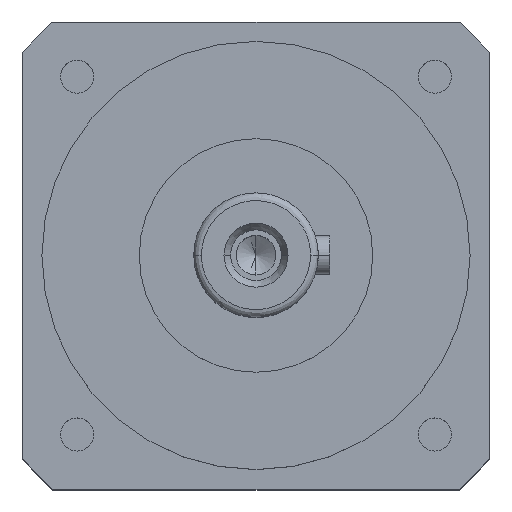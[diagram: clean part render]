
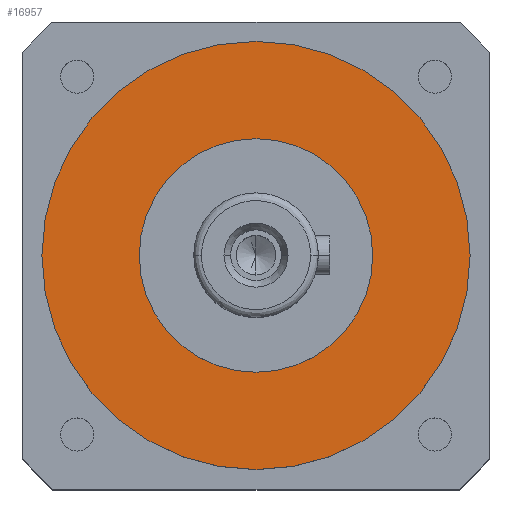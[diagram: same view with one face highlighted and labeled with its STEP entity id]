
A CAD part, top view. The second image highlights one B-rep face of the part: STEP entity #16957.
In plain terms, the highlighted planar face has unit normal (0, 0, 1).
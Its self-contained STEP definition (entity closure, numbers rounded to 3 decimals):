
#157 = DIRECTION ( 'NONE',  ( 0., 0., -1. ) ) ;
#2098 = AXIS2_PLACEMENT_3D ( 'NONE', #18201, #42589, #21761 ) ;
#3085 = DIRECTION ( 'NONE',  ( 1., 0., 0. ) ) ;
#3700 = CIRCLE ( 'NONE', #15638, 30. ) ;
#4051 = ORIENTED_EDGE ( 'NONE', *, *, #35868, .F. ) ;
#6122 = CARTESIAN_POINT ( 'NONE',  ( 0., 0., -52. ) ) ;
#6374 = CIRCLE ( 'NONE', #2098, 30. ) ;
#7255 = ORIENTED_EDGE ( 'NONE', *, *, #12723, .F. ) ;
#7733 = CARTESIAN_POINT ( 'NONE',  ( 55., 0., -52. ) ) ;
#8866 = ORIENTED_EDGE ( 'NONE', *, *, #40311, .F. ) ;
#9690 = DIRECTION ( 'NONE',  ( 1., 0., 0. ) ) ;
#12309 = ORIENTED_EDGE ( 'NONE', *, *, #20983, .F. ) ;
#12723 = EDGE_CURVE ( 'NONE', #32983, #37132, #42177, .T. ) ;
#13446 = AXIS2_PLACEMENT_3D ( 'NONE', #21364, #157, #24920 ) ;
#15638 = AXIS2_PLACEMENT_3D ( 'NONE', #6122, #30803, #9690 ) ;
#15672 = VERTEX_POINT ( 'NONE', #19877 ) ;
#16957 = ADVANCED_FACE ( 'NONE', ( #39434, #20936 ), #37096, .F. ) ;
#18201 = CARTESIAN_POINT ( 'NONE',  ( 0., 0., -52. ) ) ;
#18359 = AXIS2_PLACEMENT_3D ( 'NONE', #26686, #40590, #19717 ) ;
#19717 = DIRECTION ( 'NONE',  ( -1., 0., 0. ) ) ;
#19877 = CARTESIAN_POINT ( 'NONE',  ( -30., 0., -52. ) ) ;
#20936 = FACE_BOUND ( 'NONE', #44319, .T. ) ;
#20983 = EDGE_CURVE ( 'NONE', #15672, #44972, #6374, .T. ) ;
#21364 = CARTESIAN_POINT ( 'NONE',  ( 0., 0., -52. ) ) ;
#21761 = DIRECTION ( 'NONE',  ( 1., 0., 0. ) ) ;
#24284 = DIRECTION ( 'NONE',  ( 0., 0., -1. ) ) ;
#24920 = DIRECTION ( 'NONE',  ( 1., 0., 0. ) ) ;
#25684 = AXIS2_PLACEMENT_3D ( 'NONE', #45130, #24284, #3085 ) ;
#26686 = CARTESIAN_POINT ( 'NONE',  ( 0., 30., -52. ) ) ;
#30588 = EDGE_LOOP ( 'NONE', ( #4051, #7255 ) ) ;
#30803 = DIRECTION ( 'NONE',  ( 0., 0., 1. ) ) ;
#31228 = CARTESIAN_POINT ( 'NONE',  ( 30., 0., -52. ) ) ;
#32983 = VERTEX_POINT ( 'NONE', #44224 ) ;
#35848 = CIRCLE ( 'NONE', #13446, 55. ) ;
#35868 = EDGE_CURVE ( 'NONE', #37132, #32983, #35848, .T. ) ;
#37096 = PLANE ( 'NONE',  #18359 ) ;
#37132 = VERTEX_POINT ( 'NONE', #7733 ) ;
#39434 = FACE_OUTER_BOUND ( 'NONE', #30588, .T. ) ;
#40311 = EDGE_CURVE ( 'NONE', #44972, #15672, #3700, .T. ) ;
#40590 = DIRECTION ( 'NONE',  ( 0., 0., -1. ) ) ;
#42177 = CIRCLE ( 'NONE', #25684, 55. ) ;
#42589 = DIRECTION ( 'NONE',  ( 0., 0., 1. ) ) ;
#44224 = CARTESIAN_POINT ( 'NONE',  ( -55., 0., -52. ) ) ;
#44319 = EDGE_LOOP ( 'NONE', ( #8866, #12309 ) ) ;
#44972 = VERTEX_POINT ( 'NONE', #31228 ) ;
#45130 = CARTESIAN_POINT ( 'NONE',  ( 0., 0., -52. ) ) ;
